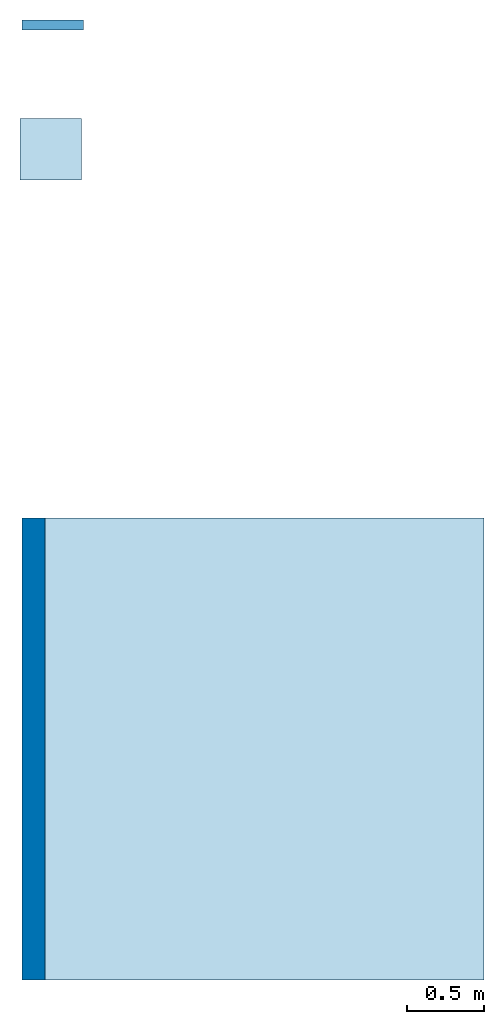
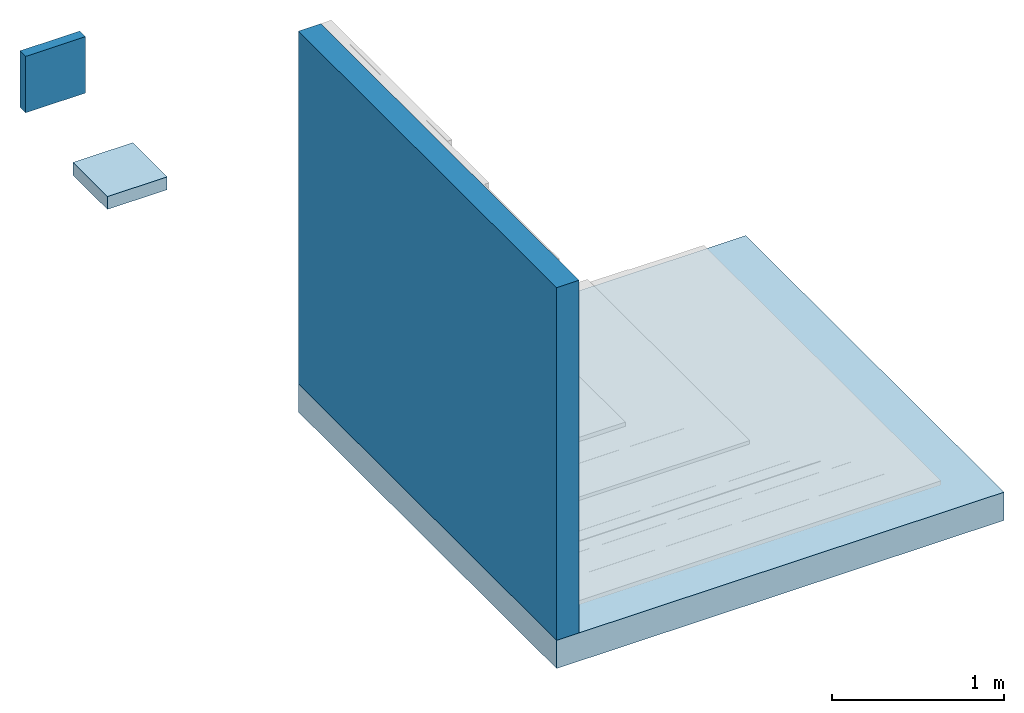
# One storey, part 1 of 2: 2 slabs, 2 walls.
"""IFC2X3 building model written with IfcOpenShell, lengths in metres."""

from ifc_helpers import new_model, entity, si_unit, converted_unit, derived_unit, direction, frame, frame_2d, origin, origin_2d_with_axis, place, context, subcontext, project, spatial, rectangle, extrude, material, layer, layer_set, layer_usage, type_object, element, save


model = new_model("IFC2X3")

# Units and contexts
model_context = context("Model", 3, precision=1e-05, world=origin(), true_north=direction((6.123031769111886e-17, 1.0)))
body_context = subcontext(model_context, "Body", "Model", "MODEL_VIEW")
ifc_project = project(units=[si_unit("LENGTHUNIT", "METRE"), si_unit("AREAUNIT", "SQUARE_METRE"), si_unit("VOLUMEUNIT", "CUBIC_METRE"), converted_unit("PLANEANGLEUNIT", "DEGREE", entity("IfcRatioMeasure", 0.017453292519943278), si_unit("PLANEANGLEUNIT", "RADIAN"), dimensions=[0, 0, 0, 0, 0, 0, 0]), si_unit("MASSUNIT", "GRAM", prefix="KILO"), derived_unit("MASSDENSITYUNIT", [(si_unit("MASSUNIT", "GRAM", prefix="KILO"), 1), (si_unit("LENGTHUNIT", "METRE"), -3)]), derived_unit("IONCONCENTRATIONUNIT", [(si_unit("MASSUNIT", "GRAM", prefix="KILO"), 1), (si_unit("LENGTHUNIT", "METRE"), -3)]), derived_unit("MOMENTOFINERTIAUNIT", [(si_unit("LENGTHUNIT", "METRE"), 4)]), si_unit("TIMEUNIT", "SECOND"), si_unit("FREQUENCYUNIT", "HERTZ"), si_unit("THERMODYNAMICTEMPERATUREUNIT", "DEGREE_CELSIUS"), derived_unit("THERMALTRANSMITTANCEUNIT", [(si_unit("MASSUNIT", "GRAM", prefix="KILO"), 1), (si_unit("THERMODYNAMICTEMPERATUREUNIT", "KELVIN"), -1), (si_unit("TIMEUNIT", "SECOND"), -3)]), derived_unit("THERMALCONDUCTANCEUNIT", [(si_unit("MASSUNIT", "GRAM", prefix="KILO"), 1), (si_unit("THERMODYNAMICTEMPERATUREUNIT", "KELVIN"), -1), (si_unit("TIMEUNIT", "SECOND"), -3), (si_unit("LENGTHUNIT", "METRE"), 1)]), derived_unit("VOLUMETRICFLOWRATEUNIT", [(si_unit("LENGTHUNIT", "METRE"), 3), (si_unit("TIMEUNIT", "SECOND"), -1)]), derived_unit("MASSFLOWRATEUNIT", [(si_unit("MASSUNIT", "GRAM", prefix="KILO"), 1), (si_unit("TIMEUNIT", "SECOND"), -1)]), derived_unit("ROTATIONALFREQUENCYUNIT", [(si_unit("TIMEUNIT", "SECOND"), -1)]), si_unit("ELECTRICCURRENTUNIT", "AMPERE"), si_unit("ELECTRICVOLTAGEUNIT", "VOLT"), si_unit("POWERUNIT", "WATT"), si_unit("FORCEUNIT", "NEWTON", prefix="KILO"), si_unit("ILLUMINANCEUNIT", "LUX"), si_unit("LUMINOUSFLUXUNIT", "LUMEN"), si_unit("LUMINOUSINTENSITYUNIT", "CANDELA"), derived_unit("USERDEFINED", [(si_unit("MASSUNIT", "GRAM", prefix="KILO"), -1), (si_unit("LENGTHUNIT", "METRE"), -2), (si_unit("TIMEUNIT", "SECOND"), 3), (si_unit("LUMINOUSFLUXUNIT", "LUMEN"), 1)]), derived_unit("USERDEFINED", [(si_unit("MASSUNIT", "GRAM", prefix="KILO"), 1), (si_unit("TIMEUNIT", "SECOND"), -3), (si_unit("LENGTHUNIT", "METRE"), 3), (si_unit("ELECTRICCURRENTUNIT", "AMPERE"), -2)]), derived_unit("SOUNDPOWERUNIT", [(si_unit("MASSUNIT", "GRAM", prefix="KILO"), 1), (si_unit("TIMEUNIT", "SECOND"), -3), (si_unit("LENGTHUNIT", "METRE"), 2)]), derived_unit("SOUNDPRESSUREUNIT", [(si_unit("MASSUNIT", "GRAM", prefix="KILO"), 1), (si_unit("LENGTHUNIT", "METRE"), -1), (si_unit("TIMEUNIT", "SECOND"), -2)]), derived_unit("LINEARVELOCITYUNIT", [(si_unit("LENGTHUNIT", "METRE"), 1), (si_unit("TIMEUNIT", "SECOND"), -1)]), si_unit("PRESSUREUNIT", "PASCAL"), derived_unit("USERDEFINED", [(si_unit("MASSUNIT", "GRAM", prefix="KILO"), 1), (si_unit("LENGTHUNIT", "METRE"), -2), (si_unit("TIMEUNIT", "SECOND"), -2)]), derived_unit("LINEARFORCEUNIT", [(si_unit("MASSUNIT", "GRAM", prefix="KILO"), 1), (si_unit("TIMEUNIT", "SECOND"), -2)]), derived_unit("PLANARFORCEUNIT", [(si_unit("MASSUNIT", "GRAM", prefix="KILO"), 1), (si_unit("LENGTHUNIT", "METRE"), -1), (si_unit("TIMEUNIT", "SECOND"), -2)]), derived_unit("SPECIFICHEATCAPACITYUNIT", [(si_unit("THERMODYNAMICTEMPERATUREUNIT", "KELVIN"), -1), (si_unit("LENGTHUNIT", "METRE"), 2), (si_unit("TIMEUNIT", "SECOND"), -2)]), derived_unit("HEATINGVALUEUNIT", [(si_unit("LENGTHUNIT", "METRE"), 2), (si_unit("TIMEUNIT", "SECOND"), -2)]), derived_unit("VAPORPERMEABILITYUNIT", [(si_unit("LENGTHUNIT", "METRE"), -1), (si_unit("TIMEUNIT", "SECOND"), 1)]), derived_unit("DYNAMICVISCOSITYUNIT", [(si_unit("MASSUNIT", "GRAM", prefix="KILO"), 1), (si_unit("TIMEUNIT", "SECOND"), -1), (si_unit("LENGTHUNIT", "METRE"), -1)]), derived_unit("THERMALEXPANSIONCOEFFICIENTUNIT", [(si_unit("THERMODYNAMICTEMPERATUREUNIT", "KELVIN"), -1)]), derived_unit("MODULUSOFELASTICITYUNIT", [(si_unit("MASSUNIT", "GRAM", prefix="KILO"), 1), (si_unit("LENGTHUNIT", "METRE"), -1), (si_unit("TIMEUNIT", "SECOND"), -2)]), derived_unit("ISOTHERMALMOISTURECAPACITYUNIT", [(si_unit("LENGTHUNIT", "METRE"), 3), (si_unit("MASSUNIT", "GRAM", prefix="KILO"), -1)]), derived_unit("MOISTUREDIFFUSIVITYUNIT", [(si_unit("TIMEUNIT", "SECOND"), -1), (si_unit("LENGTHUNIT", "METRE"), 2)])], contexts=[model_context])

# Site, building, storey
site_placement = place(None, origin())
site = spatial("IfcSite", under=ifc_project, at=site_placement, Name="Default", CompositionType="ELEMENT")
building_placement = place(site_placement, origin())
building = spatial("IfcBuilding", under=site, at=building_placement, CompositionType="ELEMENT")
storey_placement = place(building_placement, frame((0.0, 0.0, -0.0025237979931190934)))
storey = spatial("IfcBuildingStorey", under=building, at=storey_placement, Name="ARQ Térreo", CompositionType="ELEMENT", Elevation=-0.0025237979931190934)

# Slabs
ifc_material_1 = material(Name="#concreto")
ifc_layer_1 = layer(ifc_material_1, 0.2)
ifc_layer_set_1 = layer_set([ifc_layer_1], Name="Piso:Piso:LAJE CONCRETO")
ifc_layer_usage_1 = layer_usage(ifc_layer_set_1, "AXIS3", "POSITIVE", 0.0)
slab_type_1 = type_object("IfcSlabType", Name="Piso:Piso:LAJE CONCRETO", PredefinedType="FLOOR", material=ifc_layer_set_1)
slab_1_placement = place(storey_placement, origin())
element("IfcSlab", 1, at=slab_1_placement, inside=storey, type_object=slab_type_1, material=ifc_layer_usage_1, Name="Piso:Piso:LAJE CONCRETO", ObjectType="Piso:Piso:LAJE CONCRETO", PredefinedType="FLOOR", context=body_context, shape_type="SweptSolid", body=[
    extrude(rectangle(XDim=3.0000000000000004, YDim=3.0000000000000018, at=origin_2d_with_axis()), frame((0.9980295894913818, -1.354129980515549, 0.0), z_axis=(0.0, 0.0, -1.0), x_axis=(0.0, 1.0, 0.0)), (0.0, 0.0, 1.0), 0.2),
])
ifc_material_2 = material(Name="#proteção mecânica")
ifc_layer_2 = layer(ifc_material_2, 0.03)
ifc_material_3 = material(Name="#XPS")
ifc_layer_3 = layer(ifc_material_3, 0.025)
ifc_material_4 = material(Name="#nbr")
ifc_layer_4 = layer(ifc_material_4, 0.0009999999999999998)
ifc_material_5 = material(Name="# Torodin 3mm - TIPO III - Classe A")
ifc_layer_5 = layer(ifc_material_5, 0.003)
ifc_layer_6 = layer(ifc_material_4, 0.0009999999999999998)
ifc_material_6 = material(Name="#Primer Adeflex")
ifc_layer_7 = layer(ifc_material_6, 0.0009999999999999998)
ifc_material_7 = material(Name="#argamassa")
ifc_layer_8 = layer(ifc_material_7, 0.03)
ifc_layer_set_2 = layer_set([ifc_layer_2, ifc_layer_3, ifc_layer_4, ifc_layer_5, ifc_layer_6, ifc_layer_7, ifc_layer_8], Name="Piso:IMPH_T4AA")
ifc_layer_usage_2 = layer_usage(ifc_layer_set_2, "AXIS3", "POSITIVE", 0.0)
slab_type_2 = type_object("IfcSlabType", Name="Piso:IMPH_T4AA", PredefinedType="FLOOR", material=ifc_layer_set_2)
slab_2_placement = place(storey_placement, origin())
element("IfcSlab", 2, at=slab_2_placement, inside=storey, type_object=slab_type_2, material=ifc_layer_usage_2, Name="Piso:IMPH_T4AA", ObjectType="Piso:IMPH_T4AA", PredefinedType="FLOOR", context=body_context, shape_type="SweptSolid", body=[
    extrude(rectangle(XDim=0.4, YDim=0.4, at=origin_2d_with_axis()), frame((-0.3145300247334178, 2.540929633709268, 0.0), z_axis=(0.0, 0.0, -1.0), x_axis=(0.0, 1.0, 0.0)), (0.0, 0.0, 1.0), 0.09100000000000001),
])

# Walls
ifc_layer_9 = layer(ifc_material_1, 0.14999999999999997)
ifc_layer_set_3 = layer_set([ifc_layer_9], Name="Parede básica:Parede básica:Parede Concreto")
ifc_layer_usage_3 = layer_usage(ifc_layer_set_3, "AXIS2", "NEGATIVE", 0.07499999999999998)
wall_type_1 = type_object("IfcWallType", Name="Parede básica:Parede básica:Parede Concreto", PredefinedType="STANDARD", material=ifc_layer_set_3)
wall_1_placement = place(storey_placement, frame((-0.4269704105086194, 0.14587001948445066, 0.0), z_axis=(0.0, 0.0, 1.0), x_axis=(0.0, -1.0, 0.0)))
element("IfcWallStandardCase", 3, at=wall_1_placement, inside=storey, type_object=wall_type_1, material=ifc_layer_usage_3, Name="Parede básica:Parede Concreto", ObjectType="Parede básica:Parede Concreto", context=body_context, shape_type="SweptSolid", body=[
    extrude(rectangle(XDim=2.9999999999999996, YDim=0.15000000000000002, at=frame_2d((1.4999999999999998, 0.0), x_axis=(-1.0, 0.0))), origin(), (0.0, 0.0, 1.0), 2.4999999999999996),
])
ifc_layer_10 = layer(ifc_material_2, 0.03)
ifc_layer_11 = layer(ifc_material_3, 0.025)
ifc_material_8 = material(Name="#Vitkote Elastic")
ifc_layer_12 = layer(ifc_material_8, 0.0009999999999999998)
ifc_layer_13 = layer(ifc_material_7, 0.01)
ifc_layer_set_4 = layer_set([ifc_layer_10, ifc_layer_11, ifc_layer_12, ifc_layer_13], Name="Parede básica:IMPV_VITKOTE ELASTIC")
ifc_layer_usage_4 = layer_usage(ifc_layer_set_4, "AXIS2", "POSITIVE", -0.033)
wall_type_2 = type_object("IfcWallType", Name="Parede básica:IMPV_VITKOTE ELASTIC", PredefinedType="STANDARD", material=ifc_layer_set_4)
wall_2_placement = place(storey_placement, frame((-0.5019704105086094, 3.345870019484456, 0.0)))
element("IfcWallStandardCase", 4, at=wall_2_placement, inside=storey, type_object=wall_type_2, material=ifc_layer_usage_4, Name="Parede básica:IMPV_T4PP", ObjectType="Parede básica:IMPV_T4PP", context=body_context, shape_type="SweptSolid", body=[
    extrude(rectangle(XDim=0.4000000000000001, YDim=0.06600000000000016, at=frame_2d((0.20000000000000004, 1.249000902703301e-16), x_axis=(-1.0, 0.0))), origin(), (0.0, 0.0, 1.0), 0.4),
])

save(model, "model.ifc")
